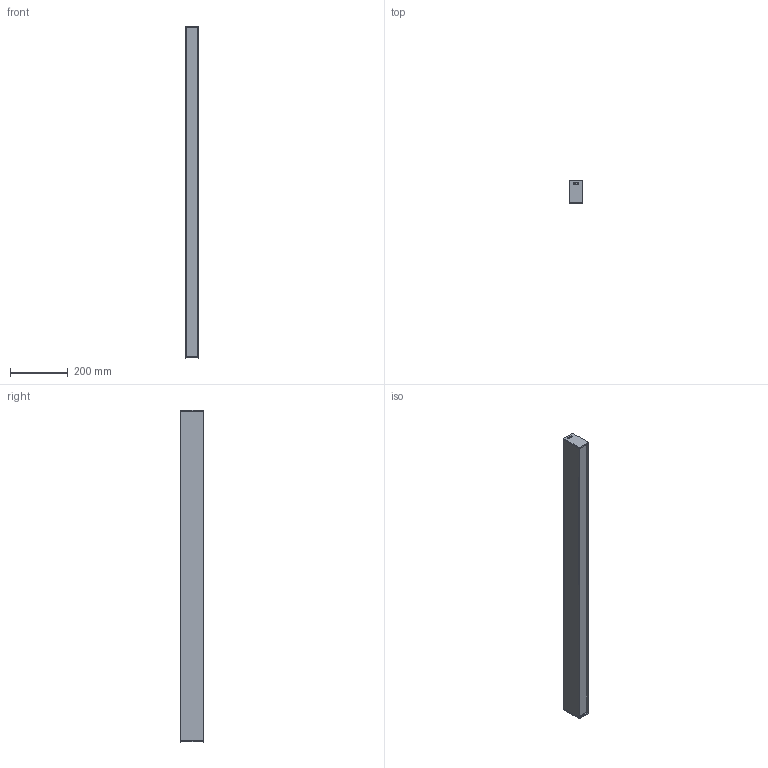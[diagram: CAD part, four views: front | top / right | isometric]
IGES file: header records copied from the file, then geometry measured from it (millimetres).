
Start section: SolidWorks IGES file using analytic representation for surfaces
Global section: file name: C:\Users\JoãoSantos\Desktop\02_3D.2D\01_2020\02_Linear\05_U45\03_Ceiling\U45_SURFACE_1149.IGS; native system: SolidWorks 2020; preprocessor: SolidWorks 2020; author: JoãoSantos; date: 201021.120937; units: millimetre
Bounding box: 45 x 77.5 x 1149 mm (x, y, z)
Surface area: 558053.3 mm2 (no closed solid volume)
Topology: 0 solids, 0 shells, 200 faces, 1136 edges, 1120 vertices
Faces by surface type: bspline 150, revolution 50
